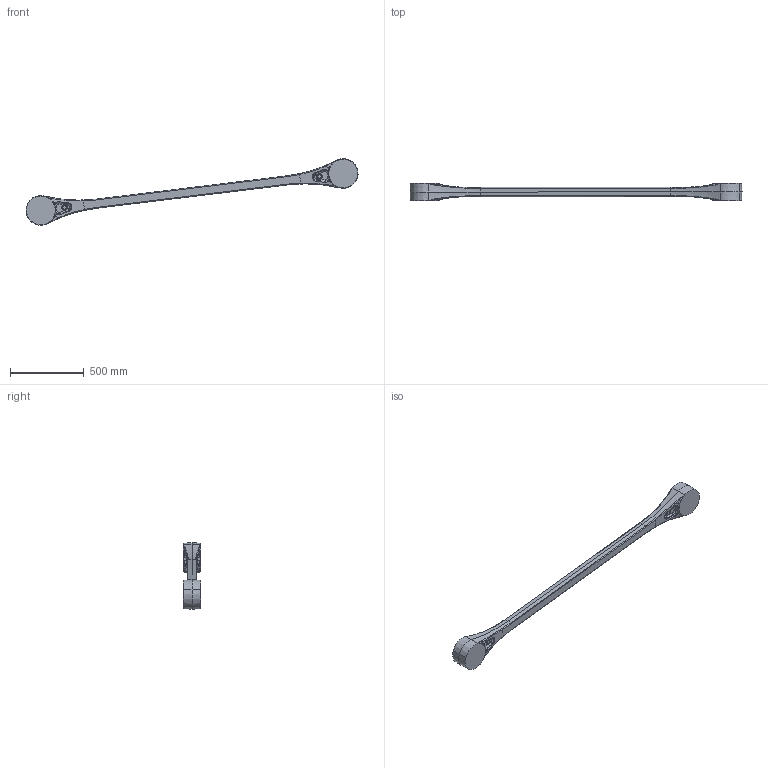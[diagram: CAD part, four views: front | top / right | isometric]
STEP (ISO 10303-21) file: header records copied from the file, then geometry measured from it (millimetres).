
FILE_DESCRIPTION(('CATIA V5 STEP Exchange','CAx-IF Rec.Pracs.--- Model Styling and Organization---1.2---2011-12-15','CAx-IF Rec.Pracs.--- Geometric and Assembly Validation Properties ---3.1---2011-10-19'),'2;1');
FILE_NAME('Z:\ROBOT\CATIA06\products\MC1000DL\Light_model\Step\090_J4Link_MC1000DL-02.stp','2016-12-26T04:06:12+00:00',('none'),('none'),'Version 5-6 Release 2012','CATIA V5 STEP AP214','none');
FILE_SCHEMA(('AUTOMOTIVE_DESIGN { 1 0 10303 214 1 1 1 1 }'));
Length unit declared in the file: millimetre
Products named in the file (1): 090_J4Link_MC1000DL-02
Bounding box: 2249.69 x 120 x 449.91 mm (x, y, z)
Volume: 15785068 mm3; surface area: 756753.2 mm2
Topology: 1 solids, 1 shells, 174 faces, 406 edges, 222 vertices
Faces by surface type: bspline 80, torus 52, cone 20, plane 18, cylinder 4
Entity records: 12827 total; most frequent: CARTESIAN_POINT 9741, ORIENTED_EDGE 780, EDGE_CURVE 390, DIRECTION 318, VERTEX_POINT 222, B_SPLINE_CURVE_WITH_KNOTS 220, AXIS2_PLACEMENT_3D 215, EDGE_LOOP 178
